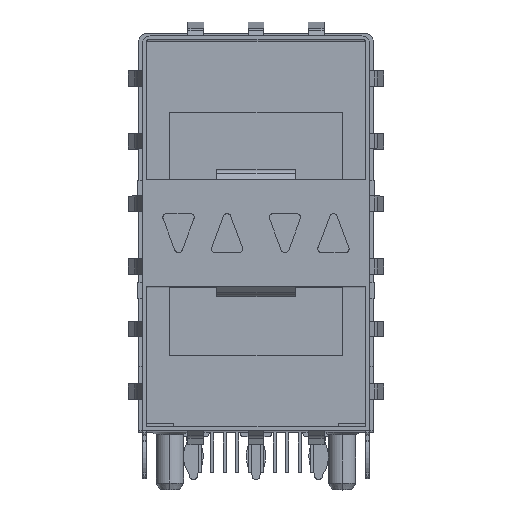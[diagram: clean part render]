
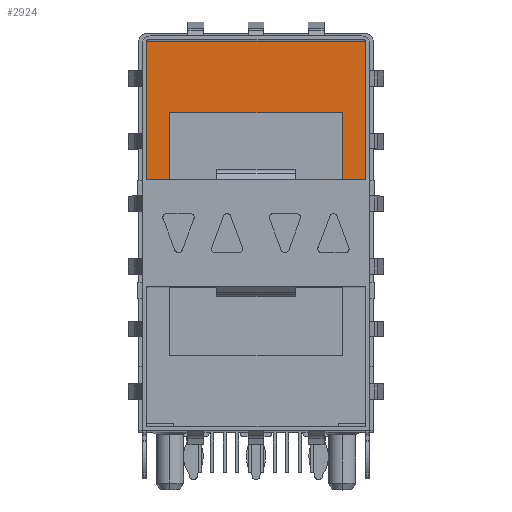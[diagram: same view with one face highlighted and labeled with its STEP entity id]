
A CAD part, top view. The second image highlights one B-rep face of the part: STEP entity #2924.
In plain terms, the highlighted planar face has unit normal (0, 0, 1).
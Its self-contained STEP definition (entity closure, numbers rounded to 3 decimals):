
#97 = LINE ( 'NONE', #10622, #4066 ) ;
#356 = EDGE_CURVE ( 'NONE', #9598, #14233, #3069, .T. ) ;
#550 = CARTESIAN_POINT ( 'NONE',  ( 5.5, 20.35, -48.55 ) ) ;
#722 = VERTEX_POINT ( 'NONE', #550 ) ;
#850 = CARTESIAN_POINT ( 'NONE',  ( -5.5, 20.35, -48.55 ) ) ;
#875 = LINE ( 'NONE', #12225, #25057 ) ;
#982 = DIRECTION ( 'NONE',  ( 0., -1., 0. ) ) ;
#1473 = VERTEX_POINT ( 'NONE', #24031 ) ;
#1891 = CARTESIAN_POINT ( 'NONE',  ( 6.9, 24.95, -48.55 ) ) ;
#2316 = CIRCLE ( 'NONE', #16678, 0.1 ) ;
#2620 = CARTESIAN_POINT ( 'NONE',  ( -7.25, 25.2, -48.55 ) ) ;
#2801 = VECTOR ( 'NONE', #10791, 1000. ) ;
#2824 = DIRECTION ( 'NONE',  ( -1., 0., 0. ) ) ;
#2916 = VERTEX_POINT ( 'NONE', #24113 ) ;
#2924 = ADVANCED_FACE ( 'NONE', ( #12119 ), #21991, .F. ) ;
#3069 = CIRCLE ( 'NONE', #15875, 0.1 ) ;
#3242 = EDGE_CURVE ( 'NONE', #15434, #18940, #7492, .T. ) ;
#3269 = ORIENTED_EDGE ( 'NONE', *, *, #9351, .T. ) ;
#3288 = DIRECTION ( 'NONE',  ( -1., 0., 0. ) ) ;
#3307 = EDGE_CURVE ( 'NONE', #25060, #1473, #97, .T. ) ;
#3369 = ORIENTED_EDGE ( 'NONE', *, *, #356, .T. ) ;
#3453 = ORIENTED_EDGE ( 'NONE', *, *, #24988, .T. ) ;
#4066 = VECTOR ( 'NONE', #16316, 1000. ) ;
#4158 = VECTOR ( 'NONE', #14265, 1000. ) ;
#4252 = DIRECTION ( 'NONE',  ( 0., -1., 0. ) ) ;
#4548 = ORIENTED_EDGE ( 'NONE', *, *, #3307, .T. ) ;
#4566 = AXIS2_PLACEMENT_3D ( 'NONE', #13110, #6941, #2824 ) ;
#4880 = CARTESIAN_POINT ( 'NONE',  ( -6.9, 16.1, -48.55 ) ) ;
#4956 = CARTESIAN_POINT ( 'NONE',  ( -5.5, 16., -48.55 ) ) ;
#5142 = EDGE_CURVE ( 'NONE', #10430, #9598, #20753, .T. ) ;
#5261 = CARTESIAN_POINT ( 'NONE',  ( -7., 16.1, -48.55 ) ) ;
#5737 = ORIENTED_EDGE ( 'NONE', *, *, #7426, .T. ) ;
#6063 = CARTESIAN_POINT ( 'NONE',  ( -6.9, 24.95, -48.55 ) ) ;
#6576 = CARTESIAN_POINT ( 'NONE',  ( 6.9, 16.1, -48.55 ) ) ;
#6601 = EDGE_CURVE ( 'NONE', #14233, #15434, #9851, .T. ) ;
#6669 = ORIENTED_EDGE ( 'NONE', *, *, #5142, .T. ) ;
#6941 = DIRECTION ( 'NONE',  ( 0., 0., 1. ) ) ;
#7288 = VECTOR ( 'NONE', #14752, 1000. ) ;
#7348 = ORIENTED_EDGE ( 'NONE', *, *, #16645, .T. ) ;
#7426 = EDGE_CURVE ( 'NONE', #722, #10430, #875, .T. ) ;
#7492 = CIRCLE ( 'NONE', #4566, 0.1 ) ;
#8182 = DIRECTION ( 'NONE',  ( 0., 0., -1. ) ) ;
#8489 = VERTEX_POINT ( 'NONE', #5261 ) ;
#8551 = DIRECTION ( 'NONE',  ( 0., 0., 1. ) ) ;
#9351 = EDGE_CURVE ( 'NONE', #2916, #8489, #13259, .T. ) ;
#9598 = VERTEX_POINT ( 'NONE', #9605 ) ;
#9605 = CARTESIAN_POINT ( 'NONE',  ( 6.9, 16., -48.55 ) ) ;
#9851 = LINE ( 'NONE', #16653, #2801 ) ;
#10430 = VERTEX_POINT ( 'NONE', #16611 ) ;
#10606 = DIRECTION ( 'NONE',  ( 0., 0., 1. ) ) ;
#10622 = CARTESIAN_POINT ( 'NONE',  ( -5.5, 20.35, -48.55 ) ) ;
#10629 = CARTESIAN_POINT ( 'NONE',  ( -7., 24.85, -48.55 ) ) ;
#10791 = DIRECTION ( 'NONE',  ( 0., 1., 0. ) ) ;
#11102 = ORIENTED_EDGE ( 'NONE', *, *, #14307, .T. ) ;
#11262 = DIRECTION ( 'NONE',  ( 1., 0., 0. ) ) ;
#11499 = CARTESIAN_POINT ( 'NONE',  ( -5.5, 16., -48.55 ) ) ;
#11982 = VECTOR ( 'NONE', #17984, 1000. ) ;
#12119 = FACE_OUTER_BOUND ( 'NONE', #12283, .T. ) ;
#12152 = ORIENTED_EDGE ( 'NONE', *, *, #3242, .T. ) ;
#12225 = CARTESIAN_POINT ( 'NONE',  ( 5.5, 20.35, -48.55 ) ) ;
#12283 = EDGE_LOOP ( 'NONE', ( #12152, #14290, #21883, #3269, #3453, #7348, #4548, #11102, #5737, #6669, #3369, #21375 ) ) ;
#12374 = CIRCLE ( 'NONE', #24476, 0.1 ) ;
#13110 = CARTESIAN_POINT ( 'NONE',  ( 6.9, 24.85, -48.55 ) ) ;
#13259 = LINE ( 'NONE', #10629, #20326 ) ;
#14195 = DIRECTION ( 'NONE',  ( -1., 0., 0. ) ) ;
#14233 = VERTEX_POINT ( 'NONE', #16536 ) ;
#14265 = DIRECTION ( 'NONE',  ( 1., 0., 0. ) ) ;
#14290 = ORIENTED_EDGE ( 'NONE', *, *, #23669, .T. ) ;
#14307 = EDGE_CURVE ( 'NONE', #1473, #722, #18953, .T. ) ;
#14564 = LINE ( 'NONE', #11499, #25253 ) ;
#14752 = DIRECTION ( 'NONE',  ( 1., 0., 0. ) ) ;
#15434 = VERTEX_POINT ( 'NONE', #17364 ) ;
#15875 = AXIS2_PLACEMENT_3D ( 'NONE', #6576, #8551, #16882 ) ;
#16316 = DIRECTION ( 'NONE',  ( 0., 1., 0. ) ) ;
#16469 = DIRECTION ( 'NONE',  ( -1., 0., 0. ) ) ;
#16536 = CARTESIAN_POINT ( 'NONE',  ( 7., 16.1, -48.55 ) ) ;
#16611 = CARTESIAN_POINT ( 'NONE',  ( 5.5, 16., -48.55 ) ) ;
#16617 = CARTESIAN_POINT ( 'NONE',  ( -6.9, 16., -48.55 ) ) ;
#16645 = EDGE_CURVE ( 'NONE', #20888, #25060, #14564, .T. ) ;
#16653 = CARTESIAN_POINT ( 'NONE',  ( 7., 16.1, -48.55 ) ) ;
#16678 = AXIS2_PLACEMENT_3D ( 'NONE', #18984, #24698, #3288 ) ;
#16882 = DIRECTION ( 'NONE',  ( -1., 0., 0. ) ) ;
#16942 = LINE ( 'NONE', #1891, #11982 ) ;
#17364 = CARTESIAN_POINT ( 'NONE',  ( 7., 24.85, -48.55 ) ) ;
#17984 = DIRECTION ( 'NONE',  ( -1., 0., 0. ) ) ;
#18603 = EDGE_CURVE ( 'NONE', #18918, #2916, #2316, .T. ) ;
#18918 = VERTEX_POINT ( 'NONE', #6063 ) ;
#18940 = VERTEX_POINT ( 'NONE', #24238 ) ;
#18953 = LINE ( 'NONE', #850, #7288 ) ;
#18984 = CARTESIAN_POINT ( 'NONE',  ( -6.9, 24.85, -48.55 ) ) ;
#19982 = CARTESIAN_POINT ( 'NONE',  ( 5.5, 16., -48.55 ) ) ;
#20326 = VECTOR ( 'NONE', #982, 1000. ) ;
#20753 = LINE ( 'NONE', #19982, #4158 ) ;
#20888 = VERTEX_POINT ( 'NONE', #16617 ) ;
#21375 = ORIENTED_EDGE ( 'NONE', *, *, #6601, .T. ) ;
#21470 = AXIS2_PLACEMENT_3D ( 'NONE', #2620, #8182, #14195 ) ;
#21883 = ORIENTED_EDGE ( 'NONE', *, *, #18603, .T. ) ;
#21991 = PLANE ( 'NONE',  #21470 ) ;
#23669 = EDGE_CURVE ( 'NONE', #18940, #18918, #16942, .T. ) ;
#24031 = CARTESIAN_POINT ( 'NONE',  ( -5.5, 20.35, -48.55 ) ) ;
#24113 = CARTESIAN_POINT ( 'NONE',  ( -7., 24.85, -48.55 ) ) ;
#24238 = CARTESIAN_POINT ( 'NONE',  ( 6.9, 24.95, -48.55 ) ) ;
#24476 = AXIS2_PLACEMENT_3D ( 'NONE', #4880, #10606, #16469 ) ;
#24698 = DIRECTION ( 'NONE',  ( 0., 0., 1. ) ) ;
#24988 = EDGE_CURVE ( 'NONE', #8489, #20888, #12374, .T. ) ;
#25057 = VECTOR ( 'NONE', #4252, 1000. ) ;
#25060 = VERTEX_POINT ( 'NONE', #4956 ) ;
#25253 = VECTOR ( 'NONE', #11262, 1000. ) ;
